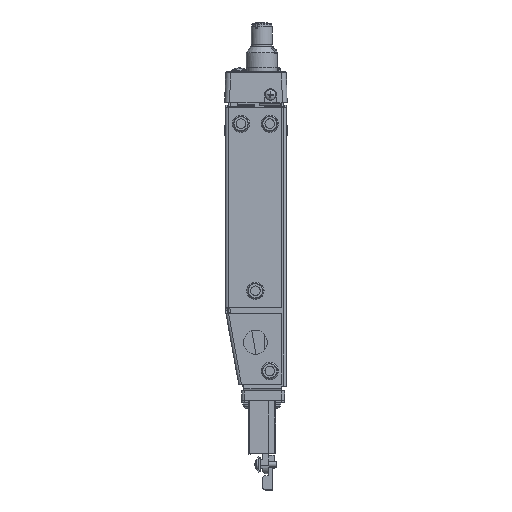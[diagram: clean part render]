
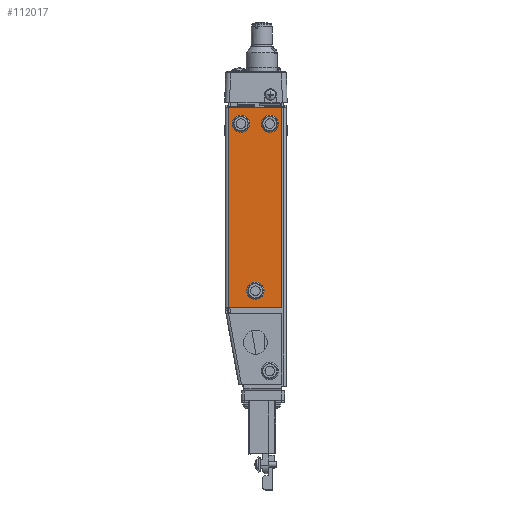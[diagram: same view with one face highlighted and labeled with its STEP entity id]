
A CAD part, left-side view. The second image highlights one B-rep face of the part: STEP entity #112017.
In plain terms, the highlighted planar face has unit normal (-1, 0, 0).
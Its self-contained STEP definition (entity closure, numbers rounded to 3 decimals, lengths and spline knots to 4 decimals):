
#271 = VERTEX_POINT ( 'NONE', #94816 ) ;
#772 = LINE ( 'NONE', #101130, #106527 ) ;
#2933 = ORIENTED_EDGE ( 'NONE', *, *, #73916, .T. ) ;
#9442 = CARTESIAN_POINT ( 'NONE',  ( -3.15, 0.5825, -4.2775 ) ) ;
#9609 = DIRECTION ( 'NONE',  ( 1., 0., 0. ) ) ;
#13035 = FACE_BOUND ( 'NONE', #40313, .T. ) ;
#16429 = AXIS2_PLACEMENT_3D ( 'NONE', #119269, #55962, #129998 ) ;
#18642 = EDGE_CURVE ( 'NONE', #47515, #83496, #128528, .T. ) ;
#20679 = EDGE_LOOP ( 'NONE', ( #2933 ) ) ;
#25092 = VECTOR ( 'NONE', #109540, 39.3701 ) ;
#25656 = EDGE_CURVE ( 'NONE', #90166, #83496, #772, .T. ) ;
#27656 = CARTESIAN_POINT ( 'NONE',  ( -3.15, -0.5375, -0.1 ) ) ;
#30305 = ORIENTED_EDGE ( 'NONE', *, *, #132201, .T. ) ;
#34162 = CARTESIAN_POINT ( 'NONE',  ( -3.15, 0.5825, -0.1 ) ) ;
#34468 = AXIS2_PLACEMENT_3D ( 'NONE', #101935, #38582, #112545 ) ;
#36575 = CIRCLE ( 'NONE', #34468, 0.18 ) ;
#38582 = DIRECTION ( 'NONE',  ( 1., 0., 0. ) ) ;
#40313 = EDGE_LOOP ( 'NONE', ( #91332 ) ) ;
#41123 = FACE_OUTER_BOUND ( 'NONE', #64507, .T. ) ;
#41250 = DIRECTION ( 'NONE',  ( 0., 0., 1. ) ) ;
#41658 = CARTESIAN_POINT ( 'NONE',  ( -3.15, -0.2875, -0.617 ) ) ;
#44825 = VERTEX_POINT ( 'NONE', #119717 ) ;
#47515 = VERTEX_POINT ( 'NONE', #27656 ) ;
#50087 = LINE ( 'NONE', #99236, #74971 ) ;
#51463 = PLANE ( 'NONE',  #58706 ) ;
#55766 = EDGE_CURVE ( 'NONE', #114421, #114421, #97279, .T. ) ;
#55962 = DIRECTION ( 'NONE',  ( 1., 0., 0. ) ) ;
#58706 = AXIS2_PLACEMENT_3D ( 'NONE', #72834, #104568, #41250 ) ;
#64507 = EDGE_LOOP ( 'NONE', ( #133459, #131288, #103924, #30305 ) ) ;
#66377 = VERTEX_POINT ( 'NONE', #41658 ) ;
#67418 = DIRECTION ( 'NONE',  ( 0., -1., 0. ) ) ;
#70399 = EDGE_LOOP ( 'NONE', ( #90274 ) ) ;
#72337 = VECTOR ( 'NONE', #103076, 39.3701 ) ;
#72834 = CARTESIAN_POINT ( 'NONE',  ( -3.15, -0.5375, 0. ) ) ;
#73019 = CARTESIAN_POINT ( 'NONE',  ( -3.15, 0.0125, -3.925 ) ) ;
#73313 = CARTESIAN_POINT ( 'NONE',  ( -3.15, 0.0125, -3.745 ) ) ;
#73916 = EDGE_CURVE ( 'NONE', #66377, #66377, #118368, .T. ) ;
#74971 = VECTOR ( 'NONE', #67418, 39.3701 ) ;
#81382 = LINE ( 'NONE', #88361, #25092 ) ;
#82445 = EDGE_CURVE ( 'NONE', #47515, #271, #81382, .T. ) ;
#83496 = VERTEX_POINT ( 'NONE', #34162 ) ;
#83547 = DIRECTION ( 'NONE',  ( 0., 0., 1. ) ) ;
#88361 = CARTESIAN_POINT ( 'NONE',  ( -3.15, -0.5375, 0. ) ) ;
#90166 = VERTEX_POINT ( 'NONE', #9442 ) ;
#90274 = ORIENTED_EDGE ( 'NONE', *, *, #92954, .T. ) ;
#91332 = ORIENTED_EDGE ( 'NONE', *, *, #55766, .T. ) ;
#92954 = EDGE_CURVE ( 'NONE', #44825, #44825, #36575, .T. ) ;
#93686 = AXIS2_PLACEMENT_3D ( 'NONE', #73019, #9609, #83547 ) ;
#94816 = CARTESIAN_POINT ( 'NONE',  ( -3.15, -0.5375, -4.2775 ) ) ;
#97279 = CIRCLE ( 'NONE', #93686, 0.18 ) ;
#97401 = FACE_BOUND ( 'NONE', #70399, .T. ) ;
#99236 = CARTESIAN_POINT ( 'NONE',  ( -3.15, -0.5375, -4.2775 ) ) ;
#101106 = DIRECTION ( 'NONE',  ( 0., 0., 1. ) ) ;
#101130 = CARTESIAN_POINT ( 'NONE',  ( -3.15, 0.5825, 0. ) ) ;
#101935 = CARTESIAN_POINT ( 'NONE',  ( -3.15, 0.3125, -0.437 ) ) ;
#103076 = DIRECTION ( 'NONE',  ( 0., 1., 0. ) ) ;
#103530 = CARTESIAN_POINT ( 'NONE',  ( -3.15, 0.6375, -0.1 ) ) ;
#103924 = ORIENTED_EDGE ( 'NONE', *, *, #25656, .F. ) ;
#104568 = DIRECTION ( 'NONE',  ( -1., 0., 0. ) ) ;
#106527 = VECTOR ( 'NONE', #101106, 39.3701 ) ;
#109540 = DIRECTION ( 'NONE',  ( 0., 0., -1. ) ) ;
#112017 = ADVANCED_FACE ( 'NONE', ( #13035, #128908, #97401, #41123 ), #51463, .T. ) ;
#112545 = DIRECTION ( 'NONE',  ( 0., 0., -1. ) ) ;
#114421 = VERTEX_POINT ( 'NONE', #73313 ) ;
#118368 = CIRCLE ( 'NONE', #16429, 0.18 ) ;
#119269 = CARTESIAN_POINT ( 'NONE',  ( -3.15, -0.2875, -0.437 ) ) ;
#119717 = CARTESIAN_POINT ( 'NONE',  ( -3.15, 0.3125, -0.617 ) ) ;
#128528 = LINE ( 'NONE', #103530, #72337 ) ;
#128908 = FACE_BOUND ( 'NONE', #20679, .T. ) ;
#129998 = DIRECTION ( 'NONE',  ( 0., 0., -1. ) ) ;
#131288 = ORIENTED_EDGE ( 'NONE', *, *, #18642, .T. ) ;
#132201 = EDGE_CURVE ( 'NONE', #90166, #271, #50087, .T. ) ;
#133459 = ORIENTED_EDGE ( 'NONE', *, *, #82445, .F. ) ;
